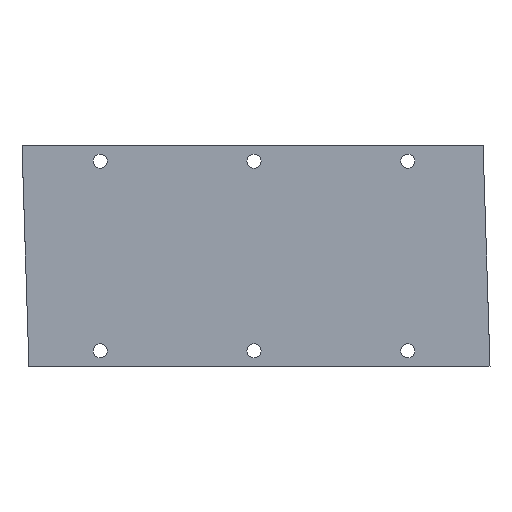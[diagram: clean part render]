
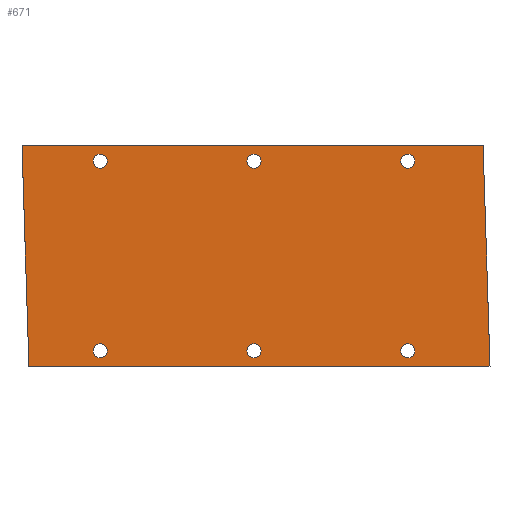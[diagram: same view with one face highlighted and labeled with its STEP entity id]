
A CAD part, front view. The second image highlights one B-rep face of the part: STEP entity #671.
In plain terms, the highlighted planar face has unit normal (0, -1, 0).
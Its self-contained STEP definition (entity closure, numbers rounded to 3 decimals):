
#13 = DIRECTION ( 'NONE',  ( 0., -1., 0. ) ) ;
#32 = CARTESIAN_POINT ( 'NONE',  ( -60.78, 0., 37. ) ) ;
#64 = DIRECTION ( 'NONE',  ( 0., 0., -1. ) ) ;
#76 = EDGE_LOOP ( 'NONE', ( #790, #1730 ) ) ;
#85 = VERTEX_POINT ( 'NONE', #731 ) ;
#117 = FACE_BOUND ( 'NONE', #1493, .T. ) ;
#120 = PLANE ( 'NONE',  #1229 ) ;
#155 = AXIS2_PLACEMENT_3D ( 'NONE', #1041, #484, #1843 ) ;
#157 = DIRECTION ( 'NONE',  ( -1., 0., 0. ) ) ;
#228 = CARTESIAN_POINT ( 'NONE',  ( -60.78, 0., -34.25 ) ) ;
#241 = DIRECTION ( 'NONE',  ( 0., -1., 0. ) ) ;
#268 = FACE_BOUND ( 'NONE', #1964, .T. ) ;
#306 = ORIENTED_EDGE ( 'NONE', *, *, #2231, .F. ) ;
#312 = VERTEX_POINT ( 'NONE', #1367 ) ;
#317 = AXIS2_PLACEMENT_3D ( 'NONE', #1464, #906, #352 ) ;
#329 = VERTEX_POINT ( 'NONE', #1529 ) ;
#331 = CARTESIAN_POINT ( 'NONE',  ( -88.65, 0., -43. ) ) ;
#336 = CIRCLE ( 'NONE', #1602, 2.75 ) ;
#352 = DIRECTION ( 'NONE',  ( 0., 0., -1. ) ) ;
#371 = CARTESIAN_POINT ( 'NONE',  ( 88.65, 0., 43. ) ) ;
#383 = LINE ( 'NONE', #649, #1961 ) ;
#418 = ORIENTED_EDGE ( 'NONE', *, *, #2134, .F. ) ;
#442 = VECTOR ( 'NONE', #1682, 1000. ) ;
#462 = CARTESIAN_POINT ( 'NONE',  ( 59.22, 0., 39.75 ) ) ;
#470 = CARTESIAN_POINT ( 'NONE',  ( -60.78, 0., 37. ) ) ;
#484 = DIRECTION ( 'NONE',  ( 0., -1., 0. ) ) ;
#512 = DIRECTION ( 'NONE',  ( 0., -1., 0. ) ) ;
#516 = VERTEX_POINT ( 'NONE', #462 ) ;
#522 = VERTEX_POINT ( 'NONE', #2170 ) ;
#542 = CARTESIAN_POINT ( 'NONE',  ( -0.78, 0., -39.75 ) ) ;
#582 = CIRCLE ( 'NONE', #317, 2.75 ) ;
#586 = VERTEX_POINT ( 'NONE', #1817 ) ;
#590 = DIRECTION ( 'NONE',  ( 0., 0., -1. ) ) ;
#598 = DIRECTION ( 'NONE',  ( 0., -1., 0. ) ) ;
#622 = EDGE_CURVE ( 'NONE', #329, #586, #1157, .T. ) ;
#626 = EDGE_CURVE ( 'NONE', #1939, #1167, #383, .T. ) ;
#649 = CARTESIAN_POINT ( 'NONE',  ( -91.35, 0., 43. ) ) ;
#654 = CARTESIAN_POINT ( 'NONE',  ( -0.78, 0., 37. ) ) ;
#659 = CARTESIAN_POINT ( 'NONE',  ( -91.35, 0., 43. ) ) ;
#671 = ADVANCED_FACE ( 'NONE', ( #117, #750, #2087, #1276, #1344, #268, #1580 ), #120, .T. ) ;
#713 = AXIS2_PLACEMENT_3D ( 'NONE', #1512, #598, #64 ) ;
#721 = DIRECTION ( 'NONE',  ( 0., 0., -1. ) ) ;
#730 = DIRECTION ( 'NONE',  ( 0., 0., -1. ) ) ;
#731 = CARTESIAN_POINT ( 'NONE',  ( 91.35, 0., -43. ) ) ;
#737 = CIRCLE ( 'NONE', #2359, 2.75 ) ;
#750 = FACE_BOUND ( 'NONE', #1328, .T. ) ;
#752 = DIRECTION ( 'NONE',  ( 0., 0., -1. ) ) ;
#762 = CARTESIAN_POINT ( 'NONE',  ( 88.65, 0., 43. ) ) ;
#763 = EDGE_LOOP ( 'NONE', ( #306, #775, #1452, #2180 ) ) ;
#775 = ORIENTED_EDGE ( 'NONE', *, *, #626, .F. ) ;
#781 = DIRECTION ( 'NONE',  ( 0., 0., -1. ) ) ;
#784 = ORIENTED_EDGE ( 'NONE', *, *, #1218, .F. ) ;
#790 = ORIENTED_EDGE ( 'NONE', *, *, #622, .F. ) ;
#799 = CIRCLE ( 'NONE', #1439, 2.75 ) ;
#812 = EDGE_LOOP ( 'NONE', ( #1566, #1248 ) ) ;
#827 = EDGE_CURVE ( 'NONE', #312, #516, #1511, .T. ) ;
#843 = EDGE_CURVE ( 'NONE', #522, #1052, #582, .T. ) ;
#845 = DIRECTION ( 'NONE',  ( 0., 0., -1. ) ) ;
#847 = VERTEX_POINT ( 'NONE', #1654 ) ;
#853 = AXIS2_PLACEMENT_3D ( 'NONE', #1650, #13, #721 ) ;
#906 = DIRECTION ( 'NONE',  ( 0., -1., 0. ) ) ;
#961 = CARTESIAN_POINT ( 'NONE',  ( -0.78, 0., -37. ) ) ;
#1011 = EDGE_CURVE ( 'NONE', #1628, #1434, #799, .T. ) ;
#1023 = EDGE_CURVE ( 'NONE', #1623, #1284, #1117, .T. ) ;
#1037 = DIRECTION ( 'NONE',  ( 0., -1., 0. ) ) ;
#1041 = CARTESIAN_POINT ( 'NONE',  ( 59.22, 0., 37. ) ) ;
#1052 = VERTEX_POINT ( 'NONE', #1825 ) ;
#1060 = DIRECTION ( 'NONE',  ( 0., -1., 0. ) ) ;
#1081 = CARTESIAN_POINT ( 'NONE',  ( -91.35, 0., 43. ) ) ;
#1102 = ORIENTED_EDGE ( 'NONE', *, *, #1725, .F. ) ;
#1117 = CIRCLE ( 'NONE', #1560, 2.75 ) ;
#1157 = CIRCLE ( 'NONE', #1323, 2.75 ) ;
#1167 = VERTEX_POINT ( 'NONE', #371 ) ;
#1192 = VERTEX_POINT ( 'NONE', #542 ) ;
#1201 = EDGE_CURVE ( 'NONE', #1284, #1623, #1824, .T. ) ;
#1207 = AXIS2_PLACEMENT_3D ( 'NONE', #961, #1361, #590 ) ;
#1218 = EDGE_CURVE ( 'NONE', #1192, #847, #737, .T. ) ;
#1229 = AXIS2_PLACEMENT_3D ( 'NONE', #2381, #2190, #1636 ) ;
#1230 = ORIENTED_EDGE ( 'NONE', *, *, #827, .F. ) ;
#1248 = ORIENTED_EDGE ( 'NONE', *, *, #1023, .F. ) ;
#1276 = FACE_BOUND ( 'NONE', #76, .T. ) ;
#1284 = VERTEX_POINT ( 'NONE', #228 ) ;
#1294 = LINE ( 'NONE', #659, #2103 ) ;
#1314 = CIRCLE ( 'NONE', #713, 2.75 ) ;
#1323 = AXIS2_PLACEMENT_3D ( 'NONE', #470, #1060, #2151 ) ;
#1328 = EDGE_LOOP ( 'NONE', ( #2297, #784 ) ) ;
#1344 = FACE_OUTER_BOUND ( 'NONE', #763, .T. ) ;
#1361 = DIRECTION ( 'NONE',  ( 0., -1., 0. ) ) ;
#1367 = CARTESIAN_POINT ( 'NONE',  ( 59.22, 0., 34.25 ) ) ;
#1377 = ORIENTED_EDGE ( 'NONE', *, *, #1011, .F. ) ;
#1393 = ORIENTED_EDGE ( 'NONE', *, *, #2384, .F. ) ;
#1418 = CIRCLE ( 'NONE', #2007, 2.75 ) ;
#1434 = VERTEX_POINT ( 'NONE', #2394 ) ;
#1439 = AXIS2_PLACEMENT_3D ( 'NONE', #1971, #2157, #1840 ) ;
#1445 = CARTESIAN_POINT ( 'NONE',  ( -60.78, 0., -37. ) ) ;
#1451 = DIRECTION ( 'NONE',  ( 0., 0., -1. ) ) ;
#1452 = ORIENTED_EDGE ( 'NONE', *, *, #1966, .F. ) ;
#1464 = CARTESIAN_POINT ( 'NONE',  ( 59.22, 0., -37. ) ) ;
#1493 = EDGE_LOOP ( 'NONE', ( #1102, #1377 ) ) ;
#1511 = CIRCLE ( 'NONE', #155, 2.75 ) ;
#1512 = CARTESIAN_POINT ( 'NONE',  ( 59.22, 0., 37. ) ) ;
#1527 = CARTESIAN_POINT ( 'NONE',  ( 59.22, 0., -37. ) ) ;
#1529 = CARTESIAN_POINT ( 'NONE',  ( -60.78, 0., 39.75 ) ) ;
#1530 = LINE ( 'NONE', #331, #1887 ) ;
#1558 = EDGE_CURVE ( 'NONE', #586, #329, #336, .T. ) ;
#1560 = AXIS2_PLACEMENT_3D ( 'NONE', #1445, #512, #1451 ) ;
#1564 = VERTEX_POINT ( 'NONE', #2246 ) ;
#1566 = ORIENTED_EDGE ( 'NONE', *, *, #1201, .F. ) ;
#1580 = FACE_BOUND ( 'NONE', #1775, .T. ) ;
#1602 = AXIS2_PLACEMENT_3D ( 'NONE', #32, #1858, #730 ) ;
#1618 = LINE ( 'NONE', #762, #442 ) ;
#1623 = VERTEX_POINT ( 'NONE', #2362 ) ;
#1628 = VERTEX_POINT ( 'NONE', #2156 ) ;
#1636 = DIRECTION ( 'NONE',  ( 0., 0., -1. ) ) ;
#1650 = CARTESIAN_POINT ( 'NONE',  ( -60.78, 0., -37. ) ) ;
#1654 = CARTESIAN_POINT ( 'NONE',  ( -0.78, 0., -34.25 ) ) ;
#1682 = DIRECTION ( 'NONE',  ( 0.031, 0., -1. ) ) ;
#1725 = EDGE_CURVE ( 'NONE', #1434, #1628, #2262, .T. ) ;
#1730 = ORIENTED_EDGE ( 'NONE', *, *, #1558, .F. ) ;
#1749 = CIRCLE ( 'NONE', #1207, 2.75 ) ;
#1775 = EDGE_LOOP ( 'NONE', ( #1393, #1230 ) ) ;
#1817 = CARTESIAN_POINT ( 'NONE',  ( -60.78, 0., 34.25 ) ) ;
#1824 = CIRCLE ( 'NONE', #853, 2.75 ) ;
#1825 = CARTESIAN_POINT ( 'NONE',  ( 59.22, 0., -39.75 ) ) ;
#1840 = DIRECTION ( 'NONE',  ( 0., 0., -1. ) ) ;
#1843 = DIRECTION ( 'NONE',  ( 0., 0., -1. ) ) ;
#1858 = DIRECTION ( 'NONE',  ( 0., -1., 0. ) ) ;
#1861 = EDGE_CURVE ( 'NONE', #85, #1564, #1530, .T. ) ;
#1880 = CARTESIAN_POINT ( 'NONE',  ( -0.78, 0., -37. ) ) ;
#1887 = VECTOR ( 'NONE', #157, 1000. ) ;
#1939 = VERTEX_POINT ( 'NONE', #1081 ) ;
#1961 = VECTOR ( 'NONE', #1975, 1000. ) ;
#1963 = DIRECTION ( 'NONE',  ( -0.031, 0., 1. ) ) ;
#1964 = EDGE_LOOP ( 'NONE', ( #2326, #418 ) ) ;
#1966 = EDGE_CURVE ( 'NONE', #1564, #1939, #1294, .T. ) ;
#1971 = CARTESIAN_POINT ( 'NONE',  ( -0.78, 0., 37. ) ) ;
#1975 = DIRECTION ( 'NONE',  ( 1., 0., 0. ) ) ;
#2007 = AXIS2_PLACEMENT_3D ( 'NONE', #1527, #241, #781 ) ;
#2057 = DIRECTION ( 'NONE',  ( 0., -1., 0. ) ) ;
#2087 = FACE_BOUND ( 'NONE', #812, .T. ) ;
#2103 = VECTOR ( 'NONE', #1963, 1000. ) ;
#2134 = EDGE_CURVE ( 'NONE', #1052, #522, #1418, .T. ) ;
#2151 = DIRECTION ( 'NONE',  ( 0., 0., -1. ) ) ;
#2156 = CARTESIAN_POINT ( 'NONE',  ( -0.78, 0., 34.25 ) ) ;
#2157 = DIRECTION ( 'NONE',  ( 0., -1., 0. ) ) ;
#2170 = CARTESIAN_POINT ( 'NONE',  ( 59.22, 0., -34.25 ) ) ;
#2180 = ORIENTED_EDGE ( 'NONE', *, *, #1861, .F. ) ;
#2190 = DIRECTION ( 'NONE',  ( 0., -1., 0. ) ) ;
#2231 = EDGE_CURVE ( 'NONE', #1167, #85, #1618, .T. ) ;
#2246 = CARTESIAN_POINT ( 'NONE',  ( -88.65, 0., -43. ) ) ;
#2262 = CIRCLE ( 'NONE', #2277, 2.75 ) ;
#2277 = AXIS2_PLACEMENT_3D ( 'NONE', #654, #1037, #845 ) ;
#2297 = ORIENTED_EDGE ( 'NONE', *, *, #2402, .F. ) ;
#2326 = ORIENTED_EDGE ( 'NONE', *, *, #843, .F. ) ;
#2359 = AXIS2_PLACEMENT_3D ( 'NONE', #1880, #2057, #752 ) ;
#2362 = CARTESIAN_POINT ( 'NONE',  ( -60.78, 0., -39.75 ) ) ;
#2381 = CARTESIAN_POINT ( 'NONE',  ( 0., 0., 0. ) ) ;
#2384 = EDGE_CURVE ( 'NONE', #516, #312, #1314, .T. ) ;
#2394 = CARTESIAN_POINT ( 'NONE',  ( -0.78, 0., 39.75 ) ) ;
#2402 = EDGE_CURVE ( 'NONE', #847, #1192, #1749, .T. ) ;
